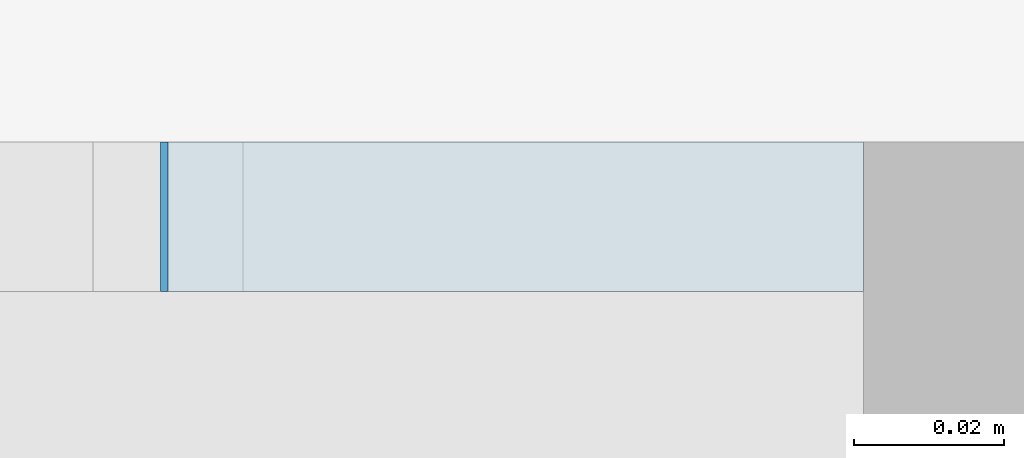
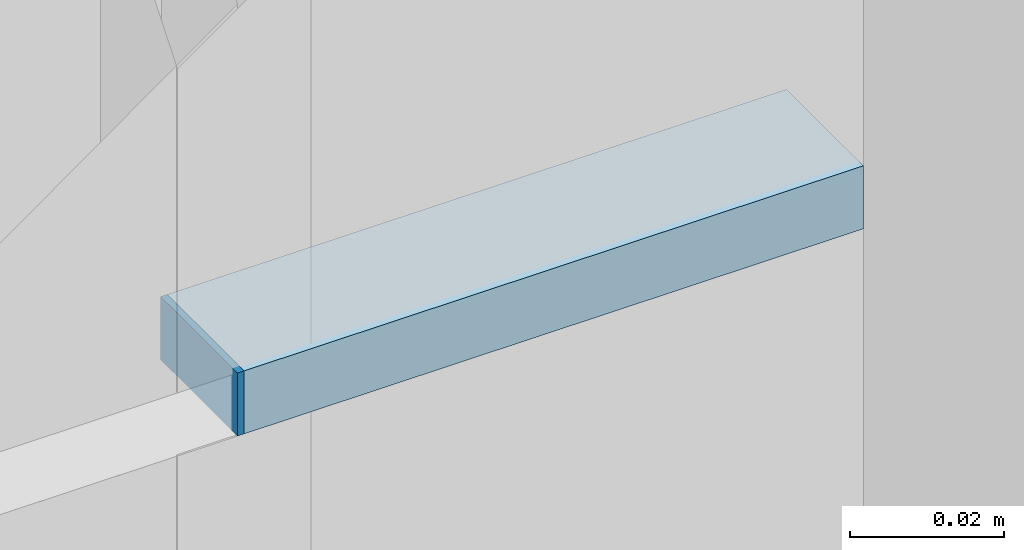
# One storey, part 48 of 73: 2 plates, 1 element without a shape of its own.
"""IFC2X3 building model written with IfcOpenShell, lengths in millimetres."""

from ifc_helpers import new_model, entity, si_unit, converted_unit, derived_unit, direction, frame, origin, origin_2d_with_axis, place, context, subcontext, project, spatial, rectangle, extrude, source, transform, mapped, material, layer, layer_set, layer_usage, type_object, type_shapes, element, aggregate, save


model = new_model("IFC2X3")

# Units and contexts
model_context = context("Model", 3, precision=0.01, world=origin(), true_north=direction((6.12303176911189e-17, 1.0)))
body_context = subcontext(model_context, "Body", "Model", "MODEL_VIEW")
ifc_project = project(units=[si_unit("LENGTHUNIT", "METRE", prefix="MILLI"), si_unit("AREAUNIT", "SQUARE_METRE"), si_unit("VOLUMEUNIT", "CUBIC_METRE"), converted_unit("PLANEANGLEUNIT", "DEGREE", entity("IfcRatioMeasure", 0.0174532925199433), si_unit("PLANEANGLEUNIT", "RADIAN"), dimensions=[0, 0, 0, 0, 0, 0, 0]), si_unit("MASSUNIT", "GRAM", prefix="KILO"), derived_unit("MASSDENSITYUNIT", [(si_unit("MASSUNIT", "GRAM", prefix="KILO"), 1), (si_unit("LENGTHUNIT", "METRE"), -3)]), si_unit("TIMEUNIT", "SECOND"), si_unit("FREQUENCYUNIT", "HERTZ"), si_unit("THERMODYNAMICTEMPERATUREUNIT", "DEGREE_CELSIUS"), derived_unit("THERMALTRANSMITTANCEUNIT", [(si_unit("MASSUNIT", "GRAM", prefix="KILO"), 1), (si_unit("THERMODYNAMICTEMPERATUREUNIT", "KELVIN"), -1), (si_unit("TIMEUNIT", "SECOND"), -3)]), derived_unit("VOLUMETRICFLOWRATEUNIT", [(si_unit("LENGTHUNIT", "METRE"), 3), (si_unit("TIMEUNIT", "SECOND"), -1)]), si_unit("ELECTRICCURRENTUNIT", "AMPERE"), si_unit("ELECTRICVOLTAGEUNIT", "VOLT"), si_unit("POWERUNIT", "WATT"), si_unit("FORCEUNIT", "NEWTON", prefix="KILO"), si_unit("ILLUMINANCEUNIT", "LUX"), si_unit("LUMINOUSFLUXUNIT", "LUMEN"), si_unit("LUMINOUSINTENSITYUNIT", "CANDELA"), derived_unit("USERDEFINED", [(si_unit("MASSUNIT", "GRAM", prefix="KILO"), -1), (si_unit("LENGTHUNIT", "METRE"), -2), (si_unit("TIMEUNIT", "SECOND"), 3), (si_unit("LUMINOUSFLUXUNIT", "LUMEN"), 1)]), derived_unit("LINEARVELOCITYUNIT", [(si_unit("LENGTHUNIT", "METRE"), 1), (si_unit("TIMEUNIT", "SECOND"), -1)]), si_unit("PRESSUREUNIT", "PASCAL"), derived_unit("USERDEFINED", [(si_unit("LENGTHUNIT", "METRE"), -2), (si_unit("MASSUNIT", "GRAM", prefix="KILO"), 1), (si_unit("TIMEUNIT", "SECOND"), -2)])], contexts=[model_context])

# Site, building, storey
site_placement = place(None, frame((-151.875543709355, 2715.0, 0.0)))
site = spatial("IfcSite", under=ifc_project, at=site_placement, Name="Surface", CompositionType="ELEMENT")
building_placement = place(site_placement, origin())
building = spatial("IfcBuilding", under=site, at=building_placement, CompositionType="ELEMENT")
storey_placement = place(building_placement, frame((0.0, 0.0, 6730.43000000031)))
storey = spatial("IfcBuildingStorey", under=building, at=storey_placement, Name="3 korrus", CompositionType="ELEMENT", Elevation=6730.43000000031)

# Curtain wall, plates
curtain_wall_type = type_object("IfcCurtainWallType", Name="Curtain Wall:Klaassein KLS-20", PredefinedType="NOTDEFINED")
curtain_wall_placement = place(storey_placement, frame((0.0, 0.0, -6730.43000000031)))
curtain_wall = element("IfcCurtainWall", 1, at=curtain_wall_placement, inside=storey, type_object=curtain_wall_type, Name="Curtain Wall:Klaassein KLS-20", ObjectType="Curtain Wall:Klaassein KLS-20")
ifc_material = material(Name="<Unnamed>")
ifc_layer = layer(ifc_material, 20.0)
ifc_layer_set = layer_set([ifc_layer], Name="Curtain Wall:Klaassein KLS-01")
ifc_layer_usage_1 = layer_usage(ifc_layer_set, "AXIS3", "POSITIVE", 0.0)
plate_type_1 = type_object("IfcPlateType", Name="Glazed", PredefinedType="CURTAIN_PANEL", material=ifc_layer_set)
shared_shape_1 = source(origin(), body_context, "Body", "SweptSolid", [
    extrude(rectangle(XDim=20.0, YDim=92.9293200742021, at=origin_2d_with_axis()), frame((0.0, 0.0, 0.0), z_axis=(0.0, 0.0, 1.0), x_axis=(0.0, 1.0, 0.0)), (0.0, 0.0, 1.0), 9.99999999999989),
])
type_shapes(plate_type_1, [shared_shape_1])
plate_1_placement = place(curtain_wall_placement, frame((29897.5524993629, 4355.04493399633, 8820.43000000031), z_axis=(0.0, 0.0, 1.0), x_axis=(-1.0, 0.0, 0.0)))
plate_1 = element("IfcPlate", 2, at=plate_1_placement, type_object=plate_type_1, material=ifc_layer_usage_1, Name="System Panel:Glazed", ObjectType="Glazed", context=body_context, shape_type="MappedRepresentation", body=[
    mapped(shared_shape_1, transform((0.0, 0.0, 0.0), scale=1.0)),
])
ifc_layer_usage_2 = layer_usage(ifc_layer_set, "AXIS3", "POSITIVE", 0.0)
plate_type_2 = type_object("IfcPlateType", Name="Glazed", PredefinedType="CURTAIN_PANEL", material=ifc_layer_set)
shared_shape_2 = source(origin(), body_context, "Body", "SweptSolid", [
    extrude(rectangle(XDim=20.0, YDim=0.999999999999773, at=origin_2d_with_axis()), frame((0.0, 0.0, 0.0), z_axis=(0.0, 0.0, 1.0), x_axis=(0.0, 1.0, 0.0)), (0.0, 0.0, 1.0), 9.99999999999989),
])
type_shapes(plate_type_2, [shared_shape_2])
plate_2_placement = place(curtain_wall_placement, frame((29850.5878393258, 4355.04493399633, 8820.43000000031), z_axis=(0.0, 0.0, 1.0), x_axis=(-1.0, 0.0, 0.0)))
plate_2 = element("IfcPlate", 3, at=plate_2_placement, type_object=plate_type_2, material=ifc_layer_usage_2, Name="System Panel:Glazed", ObjectType="Glazed", context=body_context, shape_type="MappedRepresentation", body=[
    mapped(shared_shape_2, transform((0.0, 0.0, 0.0), scale=1.0)),
])
aggregate(curtain_wall, [plate_1, plate_2])

save(model, "model.ifc")
